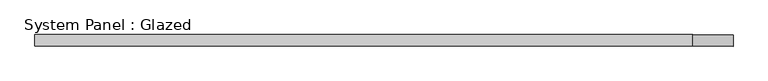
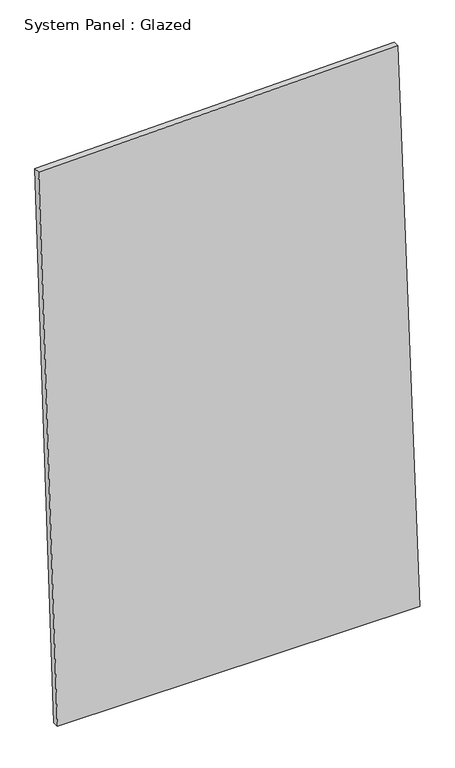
"""IFC4 building model written with IfcOpenShell, lengths in millimetres: plate geometry, System Panel : Glazed."""

from ifc_helpers import new_model, si_unit, frame, origin, place, context, project, spatial, polyline, outline, extrude, source, transform, mapped, element, save


def system_panel_glazed_56b31b0b(model_context):
    return source(origin(), model_context, "Body", "SweptSolid", [
        extrude(outline(polyline([(0.0, -688.8834131), (0.0, 764.4288663), (2408.6408852, 676.0822566), (2377.4288571, -764.4288663), (0.0, -688.8834131)])), frame((0.0, -49.5, 0.0), z_axis=(0.0, 1.0, 0.0), x_axis=(0.0, 0.0, 1.0)), (0.0, 0.0, 1.0), 25.0),
    ])


if __name__ == "__main__":
    model = new_model("IFC4")
    model_context = context("Model", 3, world=origin())
    ifc_project = project(units=[si_unit("LENGTHUNIT", "METRE", prefix="MILLI")], contexts=[model_context])
    site = spatial("IfcSite", under=ifc_project)
    building = spatial("IfcBuilding", under=site)
    placement = place(None, origin())
    system_panel_glazed_shape = system_panel_glazed_56b31b0b(model_context)
    element("IfcPlate", 1, ObjectType="System Panel : Glazed", at=placement, inside=building, context=model_context, shape_type="MappedRepresentation", body=[
        mapped(system_panel_glazed_shape, transform((0.0, 0.0, 0.0), x_axis=(1.0, 0.0, 0.0), y_axis=(0.0, 1.0, 0.0), z_axis=(0.0, 0.0, 1.0))),
    ])
    save(model, "model.ifc")
